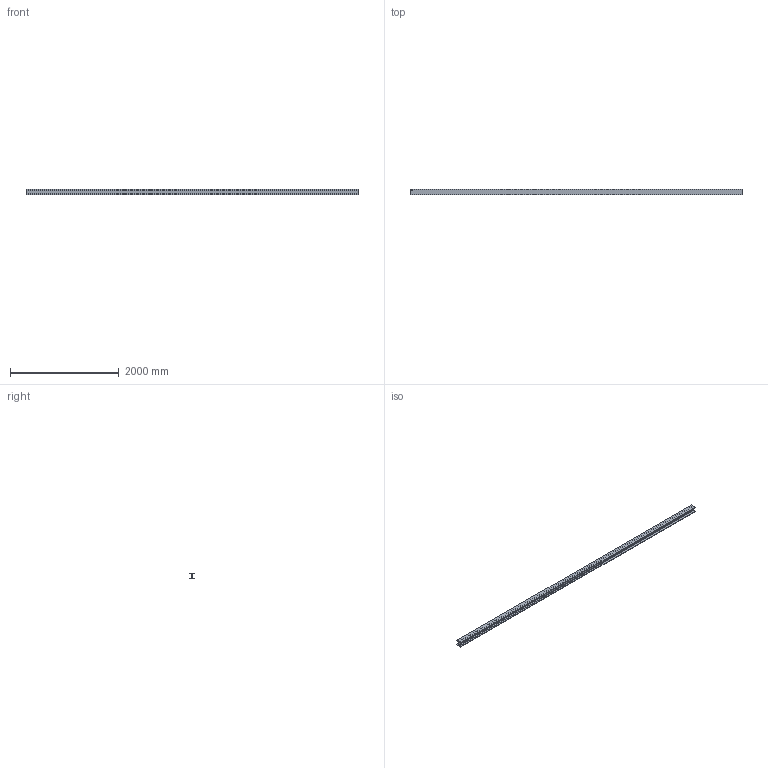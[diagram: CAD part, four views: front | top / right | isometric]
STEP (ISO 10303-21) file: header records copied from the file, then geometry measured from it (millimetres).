
FILE_DESCRIPTION (( 'STEP AP214' ), '1' );
FILE_NAME ('CCJ029-REP.061 - POUTRE SUPERIEURE C1-C3.STEP', '2024-01-31T09:35:47', ( '' ), ( '' ), 'SwSTEP 2.0', 'SolidWorks 2021', '' );
FILE_SCHEMA (( 'AUTOMOTIVE_DESIGN' ));
Length unit declared in the file: millimetre
Products named in the file (1): CCJ029-REP.061 - POUTRE SUPERIEURE C1-C3
Bounding box: 6110 x 100 x 100 mm (x, y, z)
Volume: 15908012.8 mm3; surface area: 3472099.7 mm2
Topology: 1 solids, 1 shells, 50 faces, 129 edges, 86 vertices
Faces by surface type: plane 28, bspline 18, cylinder 4
Entity records: 2747 total; most frequent: CARTESIAN_POINT 1604, ORIENTED_EDGE 258, DIRECTION 167, EDGE_CURVE 129, VERTEX_POINT 86, LINE 85, VECTOR 85, EDGE_LOOP 55
